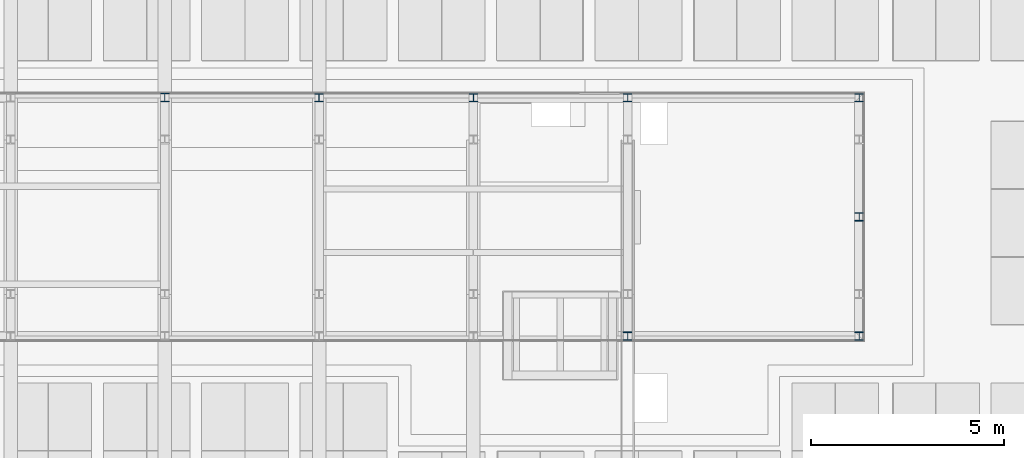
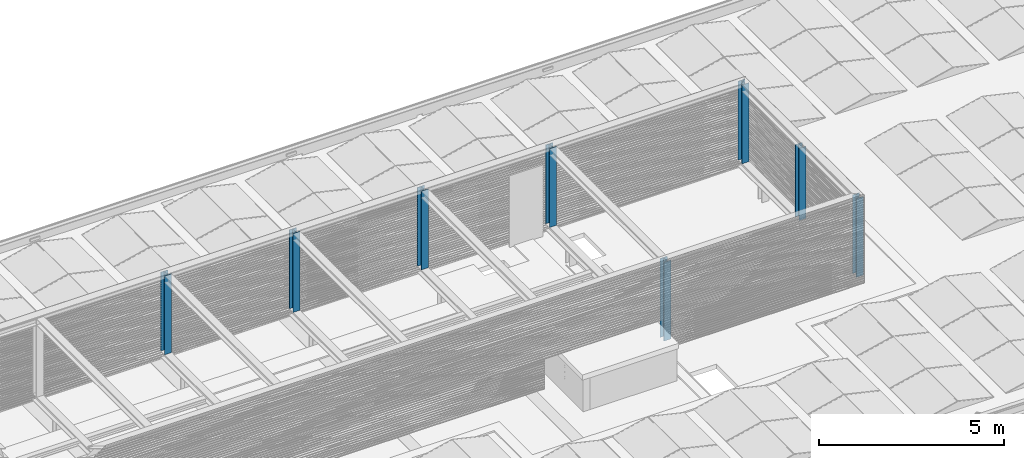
# One storey, part 2 of 63: 8 columns.
"""IFC2X3 building model written with IfcOpenShell, lengths in millimetres."""

from ifc_helpers import new_model, entity, si_unit, converted_unit, derived_unit, money_unit, direction, frame, origin_with_axes, place, context, subcontext, project, spatial, faceted_brep, material, type_object, element, save


model = new_model("IFC2X3")

# Units and contexts
model_context = context("Model", 3, precision=0.01, world=origin_with_axes(), true_north=direction((0.0, 1.0)))
body_context = subcontext(model_context, "Body", "Model", "MODEL_VIEW")
ifc_project = project(units=[si_unit("LENGTHUNIT", "METRE", prefix="MILLI"), si_unit("AREAUNIT", "SQUARE_METRE"), si_unit("VOLUMEUNIT", "CUBIC_METRE"), converted_unit("PLANEANGLEUNIT", "DEGREE", entity("IfcPlaneAngleMeasure", 0.0174532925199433), si_unit("PLANEANGLEUNIT", "RADIAN"), dimensions=[0, 0, 0, 0, 0, 0, 0]), money_unit("EUR"), converted_unit("TIMEUNIT", "Year", entity("IfcTimeMeasure", 31557600.0), si_unit("TIMEUNIT", "SECOND"), dimensions=[0, 0, 1, 0, 0, 0, 0]), si_unit("MASSUNIT", "GRAM", prefix="KILO"), si_unit("THERMODYNAMICTEMPERATUREUNIT", "DEGREE_CELSIUS"), si_unit("LUMINOUSINTENSITYUNIT", "LUMEN"), si_unit("ENERGYUNIT", "JOULE", prefix="MEGA"), derived_unit("THERMALCONDUCTANCEUNIT", [(si_unit("POWERUNIT", "WATT"), 1), (si_unit("LENGTHUNIT", "METRE"), -1), (si_unit("THERMODYNAMICTEMPERATUREUNIT", "KELVIN"), -1)]), derived_unit("SPECIFICHEATCAPACITYUNIT", [(si_unit("ENERGYUNIT", "JOULE"), 1), (si_unit("MASSUNIT", "GRAM", prefix="KILO"), -1), (si_unit("THERMODYNAMICTEMPERATUREUNIT", "KELVIN"), -1)]), derived_unit("MASSDENSITYUNIT", [(si_unit("MASSUNIT", "GRAM", prefix="KILO"), 1), (si_unit("VOLUMEUNIT", "CUBIC_METRE"), -1)])], contexts=[model_context])

# Site, building, storey
site_placement = place(None, origin_with_axes())
site = spatial("IfcSite", under=ifc_project, at=site_placement, Name="<site naam>", CompositionType="ELEMENT")
building_placement = place(site_placement, origin_with_axes())
building = spatial("IfcBuilding", under=site, at=building_placement, Name="<Naam gebouw>", CompositionType="ELEMENT")
storey_placement = place(building_placement, frame((0.0, 0.0, 12770.0), z_axis=(0.0, 0.0, 1.0), x_axis=(1.0, 0.0, 0.0)))
storey = spatial("IfcBuildingStorey", under=building, at=storey_placement, Name="04 4e verdieping", CompositionType="ELEMENT", Elevation=12770.0)

# Columns
ifc_material = material(Name="staal C")
column_type = type_object("IfcColumnType", Name="HEB220 220 x 220", PredefinedType="COLUMN")
for number, where, z_axis, x_axis, name in (
    (1, (40000.00000000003, 13092.35678737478, 559.6514325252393), (0.0, 0.0, 1.0), (1.0, 0.0, 0.0), "28_Kolom_HEB220"),
    (2, (44000.00000000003, 13084.50000000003, 559.6514325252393), (0.0, 0.0, 1.0), (1.0, 0.0, 0.0), "28_Kolom_HEB220"),
    (3, (52000.00007868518, 13084.49997390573, 559.6514325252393), (0.0, 0.0, 1.0), (1.0, 0.0, 0.0), "28_Kolom_HEB220"),
):
    element("IfcColumn", number, at=place(storey_placement, frame(where, z_axis=z_axis, x_axis=x_axis)), inside=storey, type_object=column_type, material=ifc_material, Name=name, ObjectType="COLUMN", context=body_context, shape_type="Brep", body=[
        faceted_brep([(-109.9999999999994, 115.5000000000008, 2595.734376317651), (-109.9999999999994, 115.5000000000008, 0.0), (-109.9999999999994, 99.50000000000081, 0.0), (-109.9999999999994, 99.50000000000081, 2595.734376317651), (109.9999999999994, 115.5000000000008, 2595.734376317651), (109.9999999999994, 115.5000000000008, 0.0), (109.9999999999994, 99.50000000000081, 0.0), (4.750000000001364, 99.50000000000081, 0.0), (4.750000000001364, -88.4999999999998, 0.0), (109.9999999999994, -88.4999999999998, 0.0), (109.9999999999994, -104.4999999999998, 0.0), (-109.9999999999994, -104.4999999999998, 0.0), (-109.9999999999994, -88.4999999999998, 0.0), (-4.750000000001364, -88.4999999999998, 0.0), (-4.750000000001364, 99.50000000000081, 0.0), (-4.750000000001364, 99.50000000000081, 2595.734376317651), (-4.750000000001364, -88.4999999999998, 2595.734376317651), (-109.9999999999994, -88.4999999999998, 2595.734376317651), (-109.9999999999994, -104.4999999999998, 2595.734376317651), (109.9999999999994, -104.4999999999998, 2595.734376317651), (109.9999999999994, -88.4999999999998, 2595.734376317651), (4.750000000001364, -88.4999999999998, 2595.734376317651), (4.750000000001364, 99.50000000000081, 2595.734376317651), (109.9999999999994, 99.50000000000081, 2595.734376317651)], [[[0, 1, 2, 3]], [[4, 5, 1, 0]], [[2, 1, 5, 6, 7, 8, 9, 10, 11, 12, 13, 14]], [[3, 2, 14, 15]], [[4, 0, 3, 15, 16, 17, 18, 19, 20, 21, 22, 23]], [[23, 6, 5, 4]], [[22, 7, 6, 23]], [[21, 8, 7, 22]], [[20, 9, 8, 21]], [[19, 10, 9, 20]], [[18, 11, 10, 19]], [[17, 12, 11, 18]], [[16, 13, 12, 17]], [[15, 14, 13, 16]]]),
    ])
column_1_placement = place(storey_placement, frame((52000.00007868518, 6904.499973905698, 559.6514325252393), z_axis=(0.0, 0.0, 1.0), x_axis=(1.0, 0.0, 0.0)))
element("IfcColumn", 4, at=column_1_placement, inside=storey, type_object=column_type, material=ifc_material, Name="28_Kolom_HEB220", ObjectType="COLUMN", context=body_context, shape_type="Brep", body=[
    faceted_brep([(-109.9999999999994, 115.4999999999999, 2595.734376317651), (-109.9999999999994, 115.4999999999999, 0.0), (-109.9999999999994, 99.49999999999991, 0.0), (-109.9999999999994, 99.49999999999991, 2595.734376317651), (109.9999999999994, 115.4999999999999, 2595.734376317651), (109.9999999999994, 115.4999999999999, 0.0), (109.9999999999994, 99.49999999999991, 0.0), (4.750000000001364, 99.49999999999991, 0.0), (4.750000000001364, -88.4999999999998, 0.0), (109.9999999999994, -88.4999999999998, 0.0), (109.9999999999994, -104.4999999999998, 0.0), (-109.9999999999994, -104.4999999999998, 0.0), (-109.9999999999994, -88.4999999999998, 0.0), (-4.750000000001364, -88.4999999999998, 0.0), (-4.750000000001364, 99.49999999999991, 0.0), (-4.750000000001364, 99.49999999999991, 2595.734376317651), (-4.750000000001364, -88.4999999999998, 2595.734376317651), (-109.9999999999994, -88.4999999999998, 2595.734376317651), (-109.9999999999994, -104.4999999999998, 2595.734376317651), (109.9999999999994, -104.4999999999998, 2595.734376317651), (109.9999999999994, -88.4999999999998, 2595.734376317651), (4.750000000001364, -88.4999999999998, 2595.734376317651), (4.750000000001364, 99.49999999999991, 2595.734376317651), (109.9999999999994, 99.49999999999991, 2595.734376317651)], [[[0, 1, 2, 3]], [[4, 5, 1, 0]], [[2, 1, 5, 6, 7, 8, 9, 10, 11, 12, 13, 14]], [[3, 2, 14, 15]], [[4, 0, 3, 15, 16, 17, 18, 19, 20, 21, 22, 23]], [[23, 6, 5, 4]], [[22, 7, 6, 23]], [[21, 8, 7, 22]], [[20, 9, 8, 21]], [[19, 10, 9, 20]], [[18, 11, 10, 19]], [[17, 12, 11, 18]], [[16, 13, 12, 17]], [[15, 14, 13, 16]]]),
])
for number, where, z_axis, x_axis, name in (
    (5, (48000.00000000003, 13084.50000000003, 559.6514325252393), (0.0, 0.0, 1.0), (1.0, 0.0, 0.0), "28_Kolom_HEB220"),
    (6, (58000.00000000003, 13084.50000000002, 559.6514325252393), (0.0, 0.0, 1.0), (1.0, 0.0, 0.0), "28_Kolom_HEB220"),
):
    element("IfcColumn", number, at=place(storey_placement, frame(where, z_axis=z_axis, x_axis=x_axis)), inside=storey, type_object=column_type, material=ifc_material, Name=name, ObjectType="COLUMN", context=body_context, shape_type="Brep", body=[
        faceted_brep([(-109.9999999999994, 115.5000000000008, 2595.734376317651), (-109.9999999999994, 115.5000000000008, 0.0), (-109.9999999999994, 99.50000000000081, 0.0), (-109.9999999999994, 99.50000000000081, 2595.734376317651), (109.9999999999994, 115.5000000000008, 2595.734376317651), (109.9999999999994, 115.5000000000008, 0.0), (109.9999999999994, 99.50000000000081, 0.0), (4.750000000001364, 99.50000000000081, 0.0), (4.750000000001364, -88.4999999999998, 0.0), (109.9999999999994, -88.4999999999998, 0.0), (109.9999999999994, -104.4999999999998, 0.0), (-109.9999999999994, -104.4999999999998, 0.0), (-109.9999999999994, -88.4999999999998, 0.0), (-4.750000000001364, -88.4999999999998, 0.0), (-4.750000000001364, 99.50000000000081, 0.0), (-4.750000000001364, 99.50000000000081, 2595.734376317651), (-4.750000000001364, -88.4999999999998, 2595.734376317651), (-109.9999999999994, -88.4999999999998, 2595.734376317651), (-109.9999999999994, -104.4999999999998, 2595.734376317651), (109.9999999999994, -104.4999999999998, 2595.734376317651), (109.9999999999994, -88.4999999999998, 2595.734376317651), (4.750000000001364, -88.4999999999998, 2595.734376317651), (4.750000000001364, 99.50000000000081, 2595.734376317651), (109.9999999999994, 99.50000000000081, 2595.734376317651)], [[[0, 1, 2, 3]], [[4, 5, 1, 0]], [[2, 1, 5, 6, 7, 8, 9, 10, 11, 12, 13, 14]], [[3, 2, 14, 15]], [[4, 0, 3, 15, 16, 17, 18, 19, 20, 21, 22, 23]], [[23, 6, 5, 4]], [[22, 7, 6, 23]], [[21, 8, 7, 22]], [[20, 9, 8, 21]], [[19, 10, 9, 20]], [[18, 11, 10, 19]], [[17, 12, 11, 18]], [[16, 13, 12, 17]], [[15, 14, 13, 16]]]),
    ])
column_2_placement = place(storey_placement, frame((58000.00000000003, 6904.499999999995, 559.6514325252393), z_axis=(0.0, 0.0, 1.0), x_axis=(1.0, 0.0, 0.0)))
element("IfcColumn", 7, at=column_2_placement, inside=storey, type_object=column_type, material=ifc_material, Name="28_Kolom_HEB220", ObjectType="COLUMN", context=body_context, shape_type="Brep", body=[
    faceted_brep([(-109.9999999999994, 115.4999999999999, 2595.734376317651), (-109.9999999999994, 115.4999999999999, 0.0), (-109.9999999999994, 99.49999999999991, 0.0), (-109.9999999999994, 99.49999999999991, 2595.734376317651), (109.9999999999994, 115.4999999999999, 2595.734376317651), (109.9999999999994, 115.4999999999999, 0.0), (109.9999999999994, 99.49999999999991, 0.0), (4.750000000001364, 99.49999999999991, 0.0), (4.750000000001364, -88.4999999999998, 0.0), (109.9999999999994, -88.4999999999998, 0.0), (109.9999999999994, -104.4999999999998, 0.0), (-109.9999999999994, -104.4999999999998, 0.0), (-109.9999999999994, -88.4999999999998, 0.0), (-4.750000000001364, -88.4999999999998, 0.0), (-4.750000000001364, 99.49999999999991, 0.0), (-4.750000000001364, 99.49999999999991, 2595.734376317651), (-4.750000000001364, -88.4999999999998, 2595.734376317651), (-109.9999999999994, -88.4999999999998, 2595.734376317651), (-109.9999999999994, -104.4999999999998, 2595.734376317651), (109.9999999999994, -104.4999999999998, 2595.734376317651), (109.9999999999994, -88.4999999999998, 2595.734376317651), (4.750000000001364, -88.4999999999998, 2595.734376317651), (4.750000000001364, 99.49999999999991, 2595.734376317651), (109.9999999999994, 99.49999999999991, 2595.734376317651)], [[[0, 1, 2, 3]], [[4, 5, 1, 0]], [[2, 1, 5, 6, 7, 8, 9, 10, 11, 12, 13, 14]], [[3, 2, 14, 15]], [[4, 0, 3, 15, 16, 17, 18, 19, 20, 21, 22, 23]], [[23, 6, 5, 4]], [[22, 7, 6, 23]], [[21, 8, 7, 22]], [[20, 9, 8, 21]], [[19, 10, 9, 20]], [[18, 11, 10, 19]], [[17, 12, 11, 18]], [[16, 13, 12, 17]], [[15, 14, 13, 16]]]),
])
column_3_placement = place(storey_placement, frame((58000.00000000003, 9997.226925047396, 559.6514325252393), z_axis=(0.0, 0.0, 1.0), x_axis=(1.0, 0.0, 0.0)))
element("IfcColumn", 8, at=column_3_placement, inside=storey, type_object=column_type, material=ifc_material, Name="28_Kolom_HEB220", ObjectType="COLUMN", context=body_context, shape_type="Brep", body=[
    faceted_brep([(-109.9999999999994, 115.5000000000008, 2375.734376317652), (-109.9999999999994, 115.5000000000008, 0.0), (-109.9999999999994, 99.50000000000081, 0.0), (-109.9999999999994, 99.50000000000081, 2375.734376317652), (109.9999999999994, 115.5000000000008, 2375.734376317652), (109.9999999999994, 115.5000000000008, 0.0), (109.9999999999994, 99.50000000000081, 0.0), (4.750000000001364, 99.50000000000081, 0.0), (4.750000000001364, -88.4999999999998, 0.0), (109.9999999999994, -88.4999999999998, 0.0), (109.9999999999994, -104.4999999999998, 0.0), (-109.9999999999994, -104.4999999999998, 0.0), (-109.9999999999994, -88.4999999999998, 0.0), (-4.750000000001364, -88.4999999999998, 0.0), (-4.750000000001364, 99.50000000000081, 0.0), (-4.750000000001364, 99.50000000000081, 2375.734376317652), (-4.750000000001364, -88.4999999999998, 2375.734376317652), (-109.9999999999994, -88.4999999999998, 2375.734376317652), (-109.9999999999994, -104.4999999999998, 2375.734376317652), (109.9999999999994, -104.4999999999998, 2375.734376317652), (109.9999999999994, -88.4999999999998, 2375.734376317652), (4.750000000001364, -88.4999999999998, 2375.734376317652), (4.750000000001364, 99.50000000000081, 2375.734376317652), (109.9999999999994, 99.50000000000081, 2375.734376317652)], [[[0, 1, 2, 3]], [[4, 5, 1, 0]], [[2, 1, 5, 6, 7, 8, 9, 10, 11, 12, 13, 14]], [[3, 2, 14, 15]], [[4, 0, 3, 15, 16, 17, 18, 19, 20, 21, 22, 23]], [[23, 6, 5, 4]], [[22, 7, 6, 23]], [[21, 8, 7, 22]], [[20, 9, 8, 21]], [[19, 10, 9, 20]], [[18, 11, 10, 19]], [[17, 12, 11, 18]], [[16, 13, 12, 17]], [[15, 14, 13, 16]]]),
])

save(model, "model.ifc")
